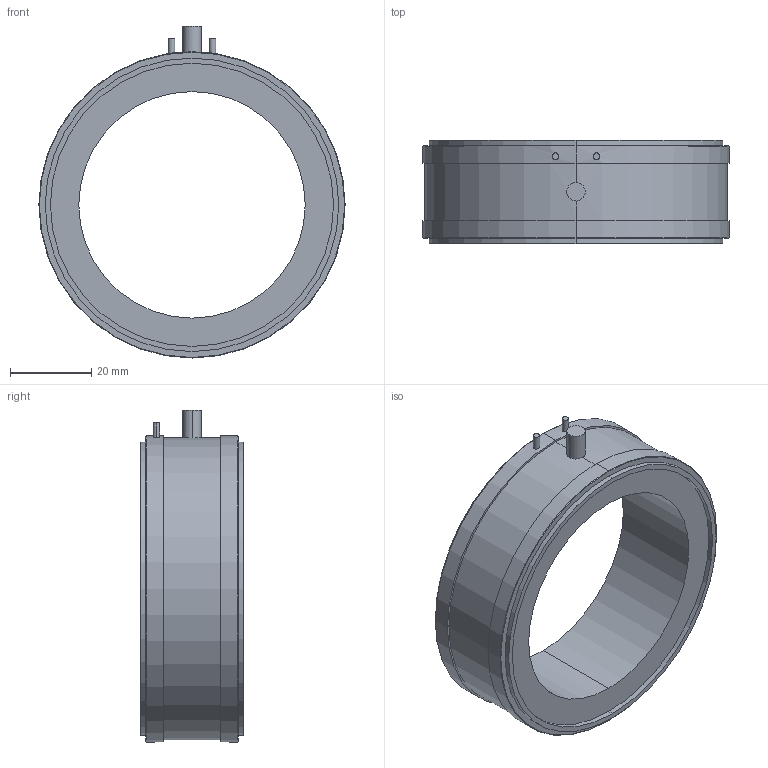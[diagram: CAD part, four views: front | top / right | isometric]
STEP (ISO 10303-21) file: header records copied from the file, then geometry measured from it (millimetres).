
FILE_DESCRIPTION (( 'STEP AP214' ), '1' );
FILE_NAME ('FINAL ASBY SS1367-6KLB.STEP', '2024-08-12T14:45:09', ( '' ), ( '' ), 'SwSTEP 2.0', 'SolidWorks 2008', '' );
FILE_SCHEMA (( 'AUTOMOTIVE_DESIGN' ));
Length unit declared in the file: inch
Products named in the file (1): FINAL ASBY SS1367-6KLB
Bounding box: 75.56 x 25.4 x 81.9 mm (x, y, z)
Volume: 45606 mm3; surface area: 14931.5 mm2
Topology: 1 solids, 1 shells, 37 faces, 77 edges, 50 vertices
Faces by surface type: cylinder 22, plane 11, cone 4
Entity records: 1132 total; most frequent: CARTESIAN_POINT 281, DIRECTION 187, ORIENTED_EDGE 154, AXIS2_PLACEMENT_3D 80, EDGE_CURVE 77, VERTEX_POINT 50, EDGE_LOOP 47, CIRCLE 42
